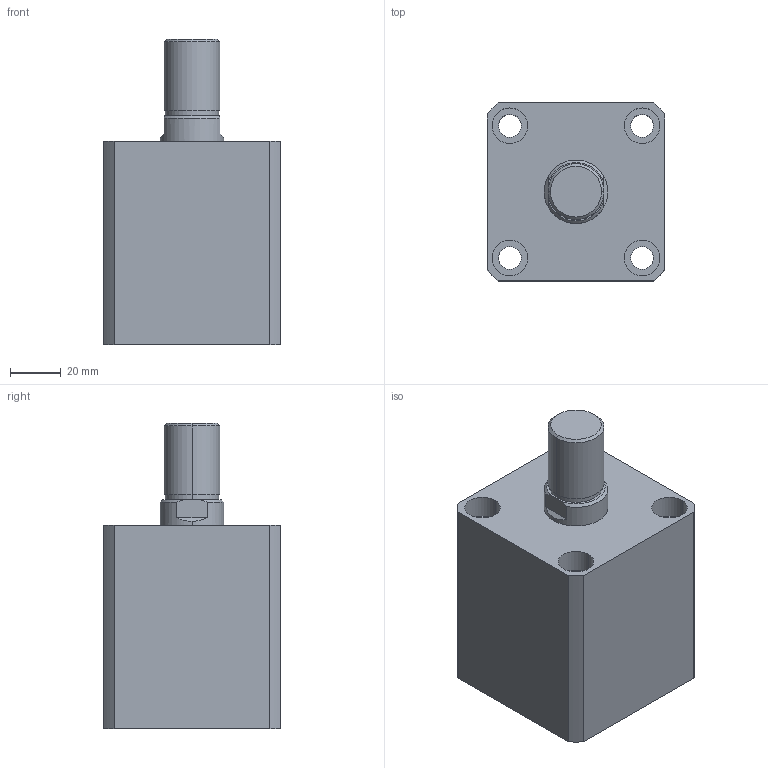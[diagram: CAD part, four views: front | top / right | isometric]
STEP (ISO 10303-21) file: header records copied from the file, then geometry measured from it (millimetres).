
FILE_DESCRIPTION (( 'STEP AP203' ), '1' );
FILE_NAME ('HTB-SDMB40-25W.STEP', '2019-10-09T01:49:41', ( '微软用户' ), ( '微软中国' ), 'SwSTEP 2.0', 'SolidWorks 2012', '' );
FILE_SCHEMA (( 'CONFIG_CONTROL_DESIGN' ));
Length unit declared in the file: millimetre
Products named in the file (3): HTB-SDMB40-25W活塞杆; HTB-SDMB40-25掛极; HTB-SDMB40-25W
Assembly tree (2 placements, depth 2):
  HTB-SDMB40-25W
    HTB-SDMB40-25掛极
    HTB-SDMB40-25W活塞杆
Bounding box: 70 x 70 x 120 mm (x, y, z)
Volume: 358376 mm3; surface area: 62138.5 mm2
Topology: 2 solids, 2 shells, 141 faces, 337 edges, 222 vertices
Faces by surface type: plane 67, cylinder 48, bspline 16, torus 6, cone 4
Entity records: 5180 total; most frequent: CARTESIAN_POINT 1597, ORIENTED_EDGE 674, DIRECTION 669, EDGE_CURVE 337, AXIS2_PLACEMENT_3D 242, VERTEX_POINT 222, LINE 185, VECTOR 185
